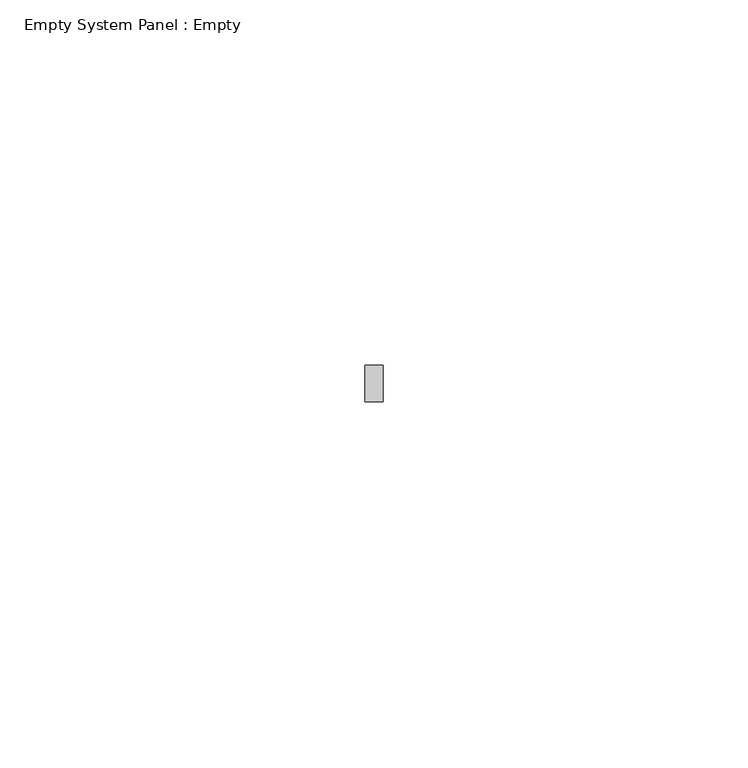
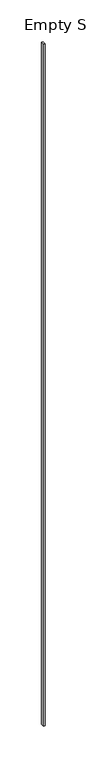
"""IFC4 building model written with IfcOpenShell, lengths in millimetres: plate geometry, Empty System Panel : Empty."""

from ifc_helpers import new_model, si_unit, origin, origin_with_axes, place, context, project, spatial, polyline, outline, extrude, source, transform, mapped, element, save


def empty_system_panel_empty_1becab5c(model_context):
    return source(origin(), model_context, "Body", "SweptSolid", [
        extrude(outline(polyline([(1.2340297, 97.5), (-1.2340297, 97.5), (-1.2340297, 102.5), (1.2340297, 102.5), (1.2340297, 97.5)])), origin_with_axes(), (0.0, 0.0, 1.0), 1000.0),
    ])


if __name__ == "__main__":
    model = new_model("IFC4")
    model_context = context("Model", 3, world=origin())
    ifc_project = project(units=[si_unit("LENGTHUNIT", "METRE", prefix="MILLI")], contexts=[model_context])
    site = spatial("IfcSite", under=ifc_project)
    building = spatial("IfcBuilding", under=site)
    placement = place(None, origin())
    empty_system_panel_empty_shape = empty_system_panel_empty_1becab5c(model_context)
    element("IfcPlate", 1, ObjectType="Empty System Panel : Empty", at=placement, inside=building, context=model_context, shape_type="MappedRepresentation", body=[
        mapped(empty_system_panel_empty_shape, transform((0.0, 0.0, 0.0), x_axis=(1.0, 0.0, 0.0), y_axis=(0.0, 1.0, 0.0), z_axis=(0.0, 0.0, 1.0))),
    ])
    save(model, "model.ifc")
